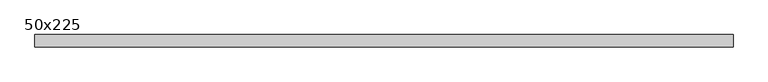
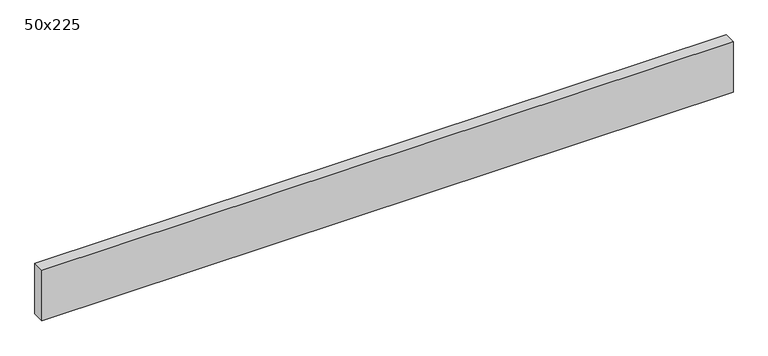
"""IFC4 building model written with IfcOpenShell, lengths in millimetres: beam geometry, Graded Timber : 50x225."""

from ifc_helpers import new_model, si_unit, frame, origin, place, context, project, spatial, polyline, outline, extrude, source, transform, mapped, element, save


def beam_50x225_fe1f8fe1(model_context):
    return source(origin(), model_context, "Body", "SweptSolid", [
        extrude(outline(polyline([(1423.0, 25.0), (1423.0, -25.0), (-1423.0, -25.0), (-1423.0, 25.0), (1423.0, 25.0)])), frame((0.0, 0.0, -110.0), z_axis=(0.0, 0.0, 1.0), x_axis=(1.0, 0.0, 0.0)), (0.0, 0.0, 1.0), 220.0),
    ])


if __name__ == "__main__":
    model = new_model("IFC4")
    model_context = context("Model", 3, world=origin())
    ifc_project = project(units=[si_unit("LENGTHUNIT", "METRE", prefix="MILLI")], contexts=[model_context])
    site = spatial("IfcSite", under=ifc_project)
    building = spatial("IfcBuilding", under=site)
    placement = place(None, origin())
    beam_50x225_shape = beam_50x225_fe1f8fe1(model_context)
    element("IfcBeam", 1, ObjectType="Graded Timber : 50x225", at=placement, inside=building, context=model_context, shape_type="MappedRepresentation", body=[
        mapped(beam_50x225_shape, transform((0.0, 0.0, 0.0), x_axis=(1.0, 0.0, 0.0), y_axis=(0.0, 1.0, 0.0), z_axis=(0.0, 0.0, 1.0))),
    ])
    save(model, "model.ifc")
